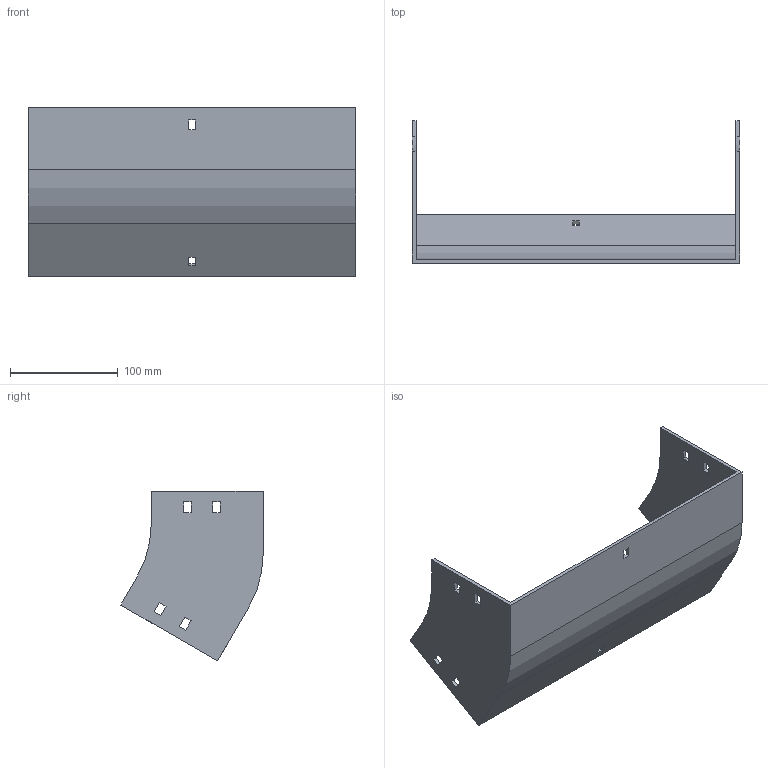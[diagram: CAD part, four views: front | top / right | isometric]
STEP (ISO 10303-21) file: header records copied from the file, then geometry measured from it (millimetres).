
FILE_DESCRIPTION (( 'STEP AP214' ), '1' );
FILE_NAME ('32F1D300.step', '2025-02-21T12:59:30', ( '' ), ( '' ), 'SwSTEP 2.0', 'SolidWorks 2023', '' );
FILE_SCHEMA (( 'AUTOMOTIVE_DESIGN' ));
Length unit declared in the file: millimetre
Products named in the file (1): 32F1D300
Bounding box: 304 x 132.4 x 157.98 mm (x, y, z)
Volume: 274391.4 mm3; surface area: 162292 mm2
Topology: 1 solids, 1 shells, 58 faces, 168 edges, 112 vertices
Faces by surface type: plane 54, cylinder 4
Entity records: 1943 total; most frequent: CARTESIAN_POINT 339, ORIENTED_EDGE 336, DIRECTION 294, EDGE_CURVE 168, VECTOR 160, LINE 160, VERTEX_POINT 112, EDGE_LOOP 78
